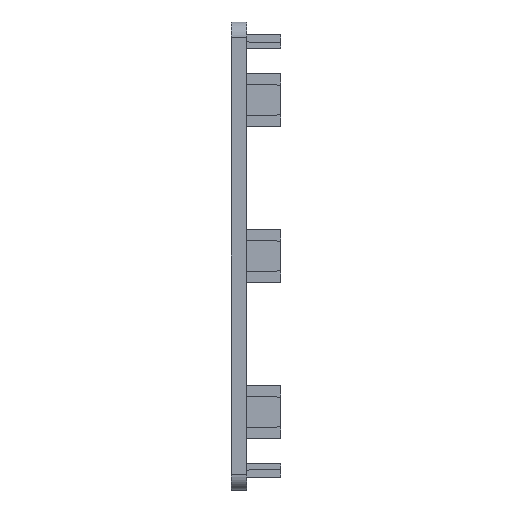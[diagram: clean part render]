
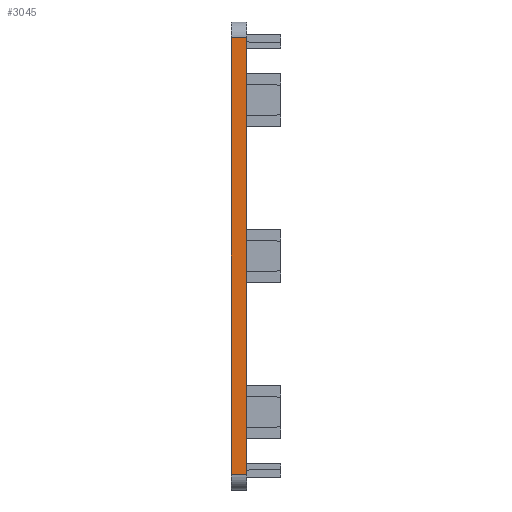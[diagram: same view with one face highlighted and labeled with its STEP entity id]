
A CAD part, left-side view. The second image highlights one B-rep face of the part: STEP entity #3045.
In plain terms, the highlighted planar face has unit normal (-1, 0, 0).
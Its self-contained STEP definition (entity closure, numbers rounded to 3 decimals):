
#132=ORIENTED_EDGE('',*,*,#1001,.T.);
#133=ORIENTED_EDGE('',*,*,#989,.T.);
#134=ORIENTED_EDGE('',*,*,#1003,.F.);
#135=ORIENTED_EDGE('',*,*,#1004,.F.);
#989=EDGE_CURVE('',#1419,#1425,#1707,.T.);
#1001=EDGE_CURVE('',#1437,#1419,#1717,.T.);
#1003=EDGE_CURVE('',#1438,#1425,#1718,.T.);
#1004=EDGE_CURVE('',#1437,#1438,#1719,.T.);
#1419=VERTEX_POINT('',#4322);
#1425=VERTEX_POINT('',#4334);
#1437=VERTEX_POINT('',#4360);
#1438=VERTEX_POINT('',#4364);
#1707=LINE('',#4335,#2103);
#1717=LINE('',#4359,#2113);
#1718=LINE('',#4363,#2114);
#1719=LINE('',#4365,#2115);
#2103=VECTOR('',#3493,1000.);
#2113=VECTOR('',#3509,1000.);
#2114=VECTOR('',#3514,1000.);
#2115=VECTOR('',#3515,1000.);
#2487=EDGE_LOOP('',(#132,#133,#134,#135));
#2695=FACE_BOUND('',#2487,.T.);
#2893=PLANE('',#3246);
#3045=ADVANCED_FACE('',(#2695),#2893,.F.);
#3246=AXIS2_PLACEMENT_3D('',#4362,#3512,#3513);
#3493=DIRECTION('',(0.,0.,1.));
#3509=DIRECTION('',(0.,-1.,0.));
#3512=DIRECTION('',(1.,0.,0.));
#3513=DIRECTION('',(0.,0.,-1.));
#3514=DIRECTION('',(0.,-1.,0.));
#3515=DIRECTION('',(0.,0.,1.));
#4322=CARTESIAN_POINT('',(0.,0.,4.));
#4334=CARTESIAN_POINT('',(0.,0.,116.));
#4335=CARTESIAN_POINT('',(0.,0.,4.));
#4359=CARTESIAN_POINT('',(0.,4.,4.));
#4360=CARTESIAN_POINT('',(0.,4.,4.));
#4362=CARTESIAN_POINT('',(0.,4.,4.));
#4363=CARTESIAN_POINT('',(0.,4.,116.));
#4364=CARTESIAN_POINT('',(0.,4.,116.));
#4365=CARTESIAN_POINT('',(0.,4.,4.));
